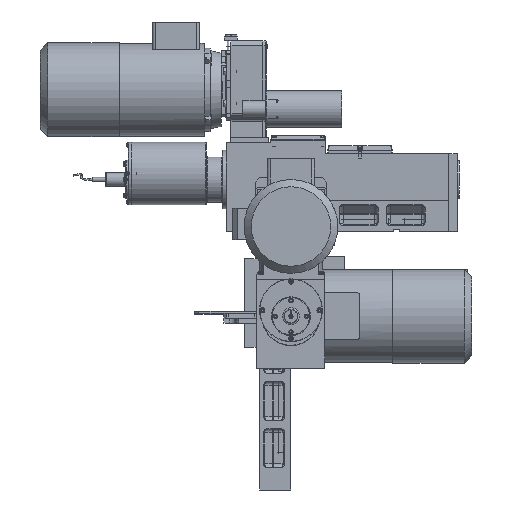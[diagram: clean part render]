
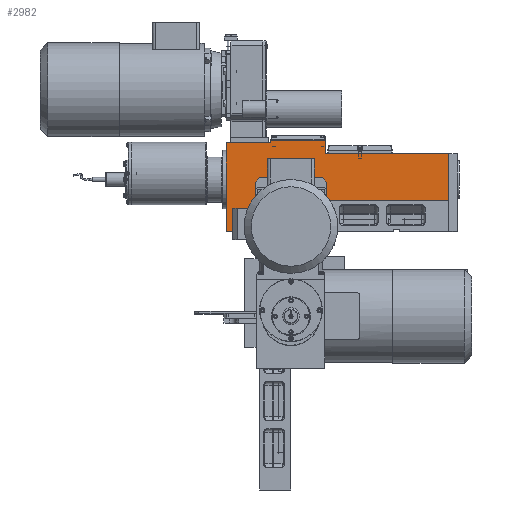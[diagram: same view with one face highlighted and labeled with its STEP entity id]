
A CAD part, front view. The second image highlights one B-rep face of the part: STEP entity #2982.
In plain terms, the highlighted planar face has unit normal (0, -1, 0).
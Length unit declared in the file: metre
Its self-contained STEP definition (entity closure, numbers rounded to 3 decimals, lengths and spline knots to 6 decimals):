
#2982 = ADVANCED_FACE( '', ( #4784 ), #4785, .T. );
#4784 = FACE_OUTER_BOUND( '', #8998, .T. );
#4785 = PLANE( '', #8999 );
#8998 = EDGE_LOOP( '', ( #14701, #14702, #14703, #14704, #14705, #14706, #14707, #14708, #14709, #14710 ) );
#8999 = AXIS2_PLACEMENT_3D( '', #14711, #14712, #14713 );
#14701 = ORIENTED_EDGE( '', *, *, #18703, .T. );
#14702 = ORIENTED_EDGE( '', *, *, #18700, .T. );
#14703 = ORIENTED_EDGE( '', *, *, #18702, .F. );
#14704 = ORIENTED_EDGE( '', *, *, #18704, .T. );
#14705 = ORIENTED_EDGE( '', *, *, #18695, .T. );
#14706 = ORIENTED_EDGE( '', *, *, #18692, .T. );
#14707 = ORIENTED_EDGE( '', *, *, #18705, .T. );
#14708 = ORIENTED_EDGE( '', *, *, #18706, .T. );
#14709 = ORIENTED_EDGE( '', *, *, #18686, .T. );
#14710 = ORIENTED_EDGE( '', *, *, #18676, .T. );
#14711 = CARTESIAN_POINT( '', ( 0.337, -0.003889, 0. ) );
#14712 = DIRECTION( '', ( 0., -1., 0. ) );
#14713 = DIRECTION( '', ( 1., 0., 0. ) );
#18676 = EDGE_CURVE( '', #21460, #21464, #21466, .T. );
#18686 = EDGE_CURVE( '', #21484, #21460, #21485, .T. );
#18692 = EDGE_CURVE( '', #21494, #21492, #21495, .T. );
#18695 = EDGE_CURVE( '', #21498, #21494, #21499, .T. );
#18700 = EDGE_CURVE( '', #21502, #21504, #21506, .T. );
#18702 = EDGE_CURVE( '', #21507, #21504, #21509, .T. );
#18703 = EDGE_CURVE( '', #21464, #21502, #21510, .T. );
#18704 = EDGE_CURVE( '', #21507, #21498, #21511, .T. );
#18705 = EDGE_CURVE( '', #21492, #21512, #21513, .T. );
#18706 = EDGE_CURVE( '', #21512, #21484, #21514, .T. );
#21460 = VERTEX_POINT( '', #27226 );
#21464 = VERTEX_POINT( '', #27232 );
#21466 = LINE( '', #27235, #27236 );
#21484 = VERTEX_POINT( '', #27263 );
#21485 = LINE( '', #27264, #27265 );
#21492 = VERTEX_POINT( '', #27276 );
#21494 = VERTEX_POINT( '', #27279 );
#21495 = LINE( '', #27280, #27281 );
#21498 = VERTEX_POINT( '', #27286 );
#21499 = LINE( '', #27287, #27288 );
#21502 = VERTEX_POINT( '', #27293 );
#21504 = VERTEX_POINT( '', #27296 );
#21506 = LINE( '', #27299, #27300 );
#21507 = VERTEX_POINT( '', #27301 );
#21509 = LINE( '', #27304, #27305 );
#21510 = LINE( '', #27306, #27307 );
#21511 = LINE( '', #27308, #27309 );
#21512 = VERTEX_POINT( '', #27310 );
#21513 = LINE( '', #27311, #27312 );
#21514 = LINE( '', #27313, #27314 );
#27226 = CARTESIAN_POINT( '', ( -0.003, -0.003889, 0.115 ) );
#27232 = CARTESIAN_POINT( '', ( -0.003, -0.003889, 0.11 ) );
#27235 = CARTESIAN_POINT( '', ( -0.003, -0.003889, 0.058735 ) );
#27236 = VECTOR( '', #30915, 1. );
#27263 = CARTESIAN_POINT( '', ( 0.102, -0.003889, 0.115 ) );
#27264 = CARTESIAN_POINT( '', ( -0.005, -0.003889, 0.115 ) );
#27265 = VECTOR( '', #30925, 1. );
#27276 = CARTESIAN_POINT( '', ( 0.337, -0.003889, 0.09 ) );
#27279 = CARTESIAN_POINT( '', ( 0.337, -0.003889, 0. ) );
#27280 = CARTESIAN_POINT( '', ( 0.337, -0.003889, 0. ) );
#27281 = VECTOR( '', #30931, 1. );
#27286 = CARTESIAN_POINT( '', ( -0.005, -0.003889, 0. ) );
#27287 = CARTESIAN_POINT( '', ( -0.005, -0.003889, 0. ) );
#27288 = VECTOR( '', #30934, 1. );
#27293 = CARTESIAN_POINT( '', ( -0.088, -0.003889, 0.11 ) );
#27296 = CARTESIAN_POINT( '', ( -0.088, -0.003889, -0.059 ) );
#27299 = CARTESIAN_POINT( '', ( -0.088, -0.003889, -0.059 ) );
#27300 = VECTOR( '', #30939, 1. );
#27301 = CARTESIAN_POINT( '', ( -0.005, -0.003889, -0.059 ) );
#27304 = CARTESIAN_POINT( '', ( -0.005, -0.003889, -0.059 ) );
#27305 = VECTOR( '', #30941, 1. );
#27306 = CARTESIAN_POINT( '', ( 0.14575, -0.003889, 0.11 ) );
#27307 = VECTOR( '', #30942, 1. );
#27308 = CARTESIAN_POINT( '', ( -0.005, -0.003889, -0.059 ) );
#27309 = VECTOR( '', #30943, 1. );
#27310 = CARTESIAN_POINT( '', ( 0.102, -0.003889, 0.09 ) );
#27311 = CARTESIAN_POINT( '', ( -0.005, -0.003889, 0.09 ) );
#27312 = VECTOR( '', #30944, 1. );
#27313 = CARTESIAN_POINT( '', ( 0.102, -0.003889, 0.09 ) );
#27314 = VECTOR( '', #30945, 1. );
#30915 = DIRECTION( '', ( 0., 0., -1. ) );
#30925 = DIRECTION( '', ( -1., 0., 0. ) );
#30931 = DIRECTION( '', ( 0., 0., 1. ) );
#30934 = DIRECTION( '', ( 1., 0., 0. ) );
#30939 = DIRECTION( '', ( 0., 0., -1. ) );
#30941 = DIRECTION( '', ( -1., 0., 0. ) );
#30942 = DIRECTION( '', ( -1., 0., 0. ) );
#30943 = DIRECTION( '', ( 0., 0., 1. ) );
#30944 = DIRECTION( '', ( -1., 0., 0. ) );
#30945 = DIRECTION( '', ( 0., 0., 1. ) );
